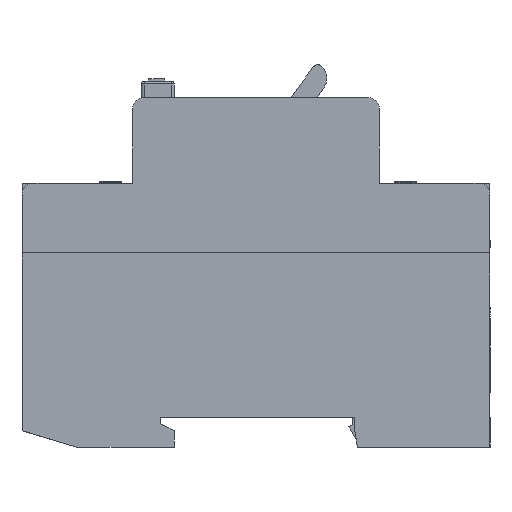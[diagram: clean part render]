
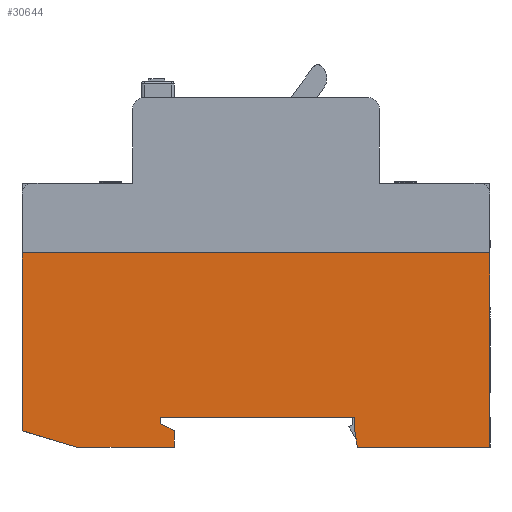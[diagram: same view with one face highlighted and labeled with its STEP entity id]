
A CAD part, left-side view. The second image highlights one B-rep face of the part: STEP entity #30644.
In plain terms, the highlighted planar face has unit normal (-1, 0, 0) as drawn and (1, 0, 0) by its records, which use the part's own axes.
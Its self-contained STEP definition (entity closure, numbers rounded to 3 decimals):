
#3887 = FACE_OUTER_BOUND ( 'NONE', #29154, .T. ) ;
#3899 = AXIS2_PLACEMENT_3D ( 'NONE', #8005, #8006, #8007 ) ;
#7070 = CARTESIAN_POINT ( 'NONE',  ( 70., 0., -35.4 ) ) ;
#7071 = CARTESIAN_POINT ( 'NONE',  ( 70., 0., 0. ) ) ;
#8004 = PLANE ( 'NONE',  #3899 ) ;
#8005 = CARTESIAN_POINT ( 'NONE',  ( 70., 0., 0. ) ) ;
#8006 = DIRECTION ( 'NONE',  ( 1., 0., 0. ) ) ;
#8007 = DIRECTION ( 'NONE',  ( 0., 0., -1. ) ) ;
#9704 = VECTOR ( 'NONE', #12749, 1000. ) ;
#9821 = VECTOR ( 'NONE', #13103, 1000. ) ;
#9837 = VECTOR ( 'NONE', #13151, 1000. ) ;
#9866 = VECTOR ( 'NONE', #13235, 1000. ) ;
#9892 = VECTOR ( 'NONE', #13313, 1000. ) ;
#9893 = VECTOR ( 'NONE', #13316, 1000. ) ;
#9895 = VECTOR ( 'NONE', #13319, 1000. ) ;
#9897 = VECTOR ( 'NONE', #13322, 1000. ) ;
#9925 = VECTOR ( 'NONE', #13418, 1000. ) ;
#9926 = VECTOR ( 'NONE', #13421, 1000. ) ;
#9927 = VECTOR ( 'NONE', #13424, 1000. ) ;
#9928 = VECTOR ( 'NONE', #13427, 1000. ) ;
#11630 = CARTESIAN_POINT ( 'NONE',  ( 70., 57.55, 0. ) ) ;
#11631 = CARTESIAN_POINT ( 'NONE',  ( 70., 75.3, 0. ) ) ;
#11645 = CARTESIAN_POINT ( 'NONE',  ( 70., 24.15, 0. ) ) ;
#11666 = CARTESIAN_POINT ( 'NONE',  ( 70., 85.3, -35.4 ) ) ;
#11667 = CARTESIAN_POINT ( 'NONE',  ( 70., 85.3, -3. ) ) ;
#11686 = CARTESIAN_POINT ( 'NONE',  ( 70., 57.55, -3. ) ) ;
#11687 = CARTESIAN_POINT ( 'NONE',  ( 70., 60.05, -4.3 ) ) ;
#11688 = CARTESIAN_POINT ( 'NONE',  ( 70., 60.05, -5.5 ) ) ;
#11689 = CARTESIAN_POINT ( 'NONE',  ( 70., 24.65, -5.5 ) ) ;
#11690 = CARTESIAN_POINT ( 'NONE',  ( 70., 24.65, -3. ) ) ;
#12747 = LINE ( 'NONE', #12748, #9704 ) ;
#12748 = CARTESIAN_POINT ( 'NONE',  ( 70., 0., 0. ) ) ;
#12749 = DIRECTION ( 'NONE',  ( 0., 0., -1. ) ) ;
#13101 = LINE ( 'NONE', #13102, #9821 ) ;
#13102 = CARTESIAN_POINT ( 'NONE',  ( 70., 85.3, 0. ) ) ;
#13103 = DIRECTION ( 'NONE',  ( 0., -1., 0. ) ) ;
#13149 = LINE ( 'NONE', #13150, #9837 ) ;
#13150 = CARTESIAN_POINT ( 'NONE',  ( 70., 85.3, 0. ) ) ;
#13151 = DIRECTION ( 'NONE',  ( 0., -1., 0. ) ) ;
#13233 = LINE ( 'NONE', #13234, #9866 ) ;
#13234 = CARTESIAN_POINT ( 'NONE',  ( 70., 85.3, -37.7 ) ) ;
#13235 = DIRECTION ( 'NONE',  ( 0., 0., 1. ) ) ;
#13311 = LINE ( 'NONE', #13312, #9892 ) ;
#13312 = CARTESIAN_POINT ( 'NONE',  ( 70., 0., -35.4 ) ) ;
#13313 = DIRECTION ( 'NONE',  ( 0., 1., 0. ) ) ;
#13314 = LINE ( 'NONE', #13315, #9893 ) ;
#13315 = CARTESIAN_POINT ( 'NONE',  ( 70., 85.3, -3. ) ) ;
#13316 = DIRECTION ( 'NONE',  ( 0., 0.958, -0.287 ) ) ;
#13317 = LINE ( 'NONE', #13318, #9895 ) ;
#13318 = CARTESIAN_POINT ( 'NONE',  ( 70., 57.55, -3. ) ) ;
#13319 = DIRECTION ( 'NONE',  ( 0., 0., 1. ) ) ;
#13320 = LINE ( 'NONE', #13321, #9897 ) ;
#13321 = CARTESIAN_POINT ( 'NONE',  ( 70., 60.05, -4.3 ) ) ;
#13322 = DIRECTION ( 'NONE',  ( 0., -0.887, 0.461 ) ) ;
#13416 = LINE ( 'NONE', #13417, #9925 ) ;
#13417 = CARTESIAN_POINT ( 'NONE',  ( 70., 60.05, -5.5 ) ) ;
#13418 = DIRECTION ( 'NONE',  ( 0., 0., 1. ) ) ;
#13419 = LINE ( 'NONE', #13420, #9926 ) ;
#13420 = CARTESIAN_POINT ( 'NONE',  ( 70., 24.65, -5.5 ) ) ;
#13421 = DIRECTION ( 'NONE',  ( 0., 1., 0. ) ) ;
#13422 = LINE ( 'NONE', #13423, #9927 ) ;
#13423 = CARTESIAN_POINT ( 'NONE',  ( 70., 24.65, -3. ) ) ;
#13424 = DIRECTION ( 'NONE',  ( 0., 0., -1. ) ) ;
#13425 = LINE ( 'NONE', #13426, #9928 ) ;
#13426 = CARTESIAN_POINT ( 'NONE',  ( 70., 24.15, 0. ) ) ;
#13427 = DIRECTION ( 'NONE',  ( 0., 0.164, -0.986 ) ) ;
#15572 = ORIENTED_EDGE ( 'NONE', *, *, #40962, .F. ) ;
#15573 = ORIENTED_EDGE ( 'NONE', *, *, #40963, .F. ) ;
#15574 = ORIENTED_EDGE ( 'NONE', *, *, #33862, .T. ) ;
#15576 = ORIENTED_EDGE ( 'NONE', *, *, #33728, .T. ) ;
#29154 = EDGE_LOOP ( 'NONE', ( #33184, #33186, #33185, #33187, #33188, #33190, #33189, #33191, #15572, #15573, #15574, #15576 ) ) ;
#30345 = VERTEX_POINT ( 'NONE', #7070 ) ;
#30346 = VERTEX_POINT ( 'NONE', #7071 ) ;
#30644 = ADVANCED_FACE ( 'NONE', ( #3887 ), #8004, .T. ) ;
#31351 = VERTEX_POINT ( 'NONE', #11630 ) ;
#31352 = VERTEX_POINT ( 'NONE', #11631 ) ;
#31366 = VERTEX_POINT ( 'NONE', #11645 ) ;
#31387 = VERTEX_POINT ( 'NONE', #11666 ) ;
#31388 = VERTEX_POINT ( 'NONE', #11667 ) ;
#31407 = VERTEX_POINT ( 'NONE', #11686 ) ;
#31408 = VERTEX_POINT ( 'NONE', #11687 ) ;
#31409 = VERTEX_POINT ( 'NONE', #11688 ) ;
#31410 = VERTEX_POINT ( 'NONE', #11689 ) ;
#31411 = VERTEX_POINT ( 'NONE', #11690 ) ;
#33184 = ORIENTED_EDGE ( 'NONE', *, *, #33916, .T. ) ;
#33185 = ORIENTED_EDGE ( 'NONE', *, *, #33917, .F. ) ;
#33186 = ORIENTED_EDGE ( 'NONE', *, *, #33890, .T. ) ;
#33187 = ORIENTED_EDGE ( 'NONE', *, *, #33846, .T. ) ;
#33188 = ORIENTED_EDGE ( 'NONE', *, *, #33918, .F. ) ;
#33189 = ORIENTED_EDGE ( 'NONE', *, *, #40960, .F. ) ;
#33190 = ORIENTED_EDGE ( 'NONE', *, *, #33919, .F. ) ;
#33191 = ORIENTED_EDGE ( 'NONE', *, *, #40961, .F. ) ;
#33728 = EDGE_CURVE ( 'NONE', #30346, #30345, #12747, .T. ) ;
#33846 = EDGE_CURVE ( 'NONE', #31352, #31351, #13101, .T. ) ;
#33862 = EDGE_CURVE ( 'NONE', #31366, #30346, #13149, .T. ) ;
#33890 = EDGE_CURVE ( 'NONE', #31387, #31388, #13233, .T. ) ;
#33916 = EDGE_CURVE ( 'NONE', #30345, #31387, #13311, .T. ) ;
#33917 = EDGE_CURVE ( 'NONE', #31352, #31388, #13314, .T. ) ;
#33918 = EDGE_CURVE ( 'NONE', #31407, #31351, #13317, .T. ) ;
#33919 = EDGE_CURVE ( 'NONE', #31408, #31407, #13320, .T. ) ;
#40960 = EDGE_CURVE ( 'NONE', #31409, #31408, #13416, .T. ) ;
#40961 = EDGE_CURVE ( 'NONE', #31410, #31409, #13419, .T. ) ;
#40962 = EDGE_CURVE ( 'NONE', #31411, #31410, #13422, .T. ) ;
#40963 = EDGE_CURVE ( 'NONE', #31366, #31411, #13425, .T. ) ;
